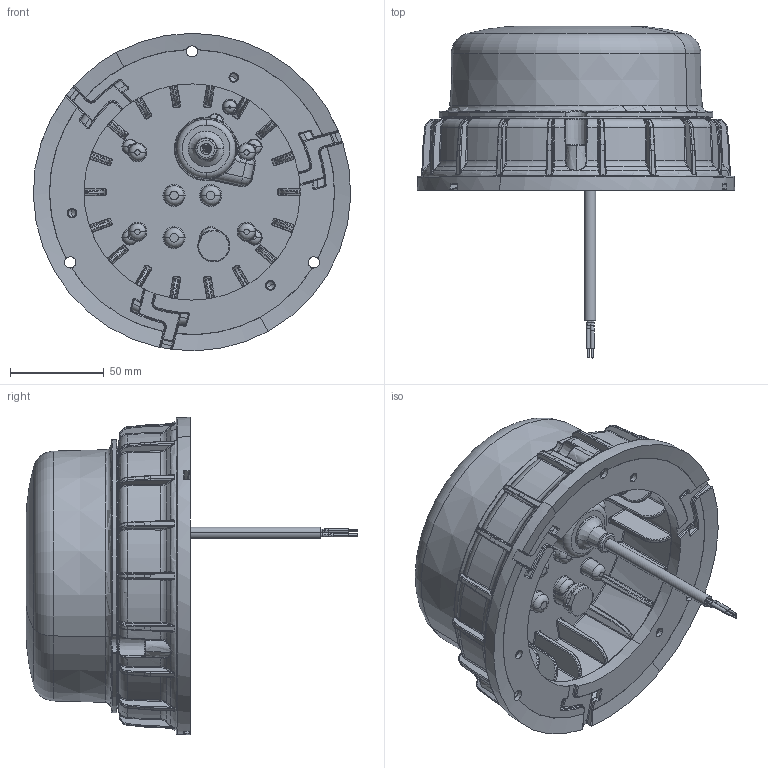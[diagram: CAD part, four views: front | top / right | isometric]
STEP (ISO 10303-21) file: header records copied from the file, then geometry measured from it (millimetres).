
FILE_DESCRIPTION(('CATIA V5 STEP Exchange','CAx-IF Rec.Pracs.--- Model Styling and Organization---1.5--- 2016-08-15','CAx-IF Rec.Pracs.---Supplemental Geometry---1.0---2011-11-01','CAx-IF Rec.Pracs.--- Composite Materials ---1.1---2010-07-15'),'2;1');
FILE_NAME('E:\tmp\ddx\2011221\HELLA_3D_data_K-LED_2-0_fix_2XD-011- 557-10.stp','2022-01-18T07:28:18+00:00',('none'),('none'),'CATIA Version 5-6 Release 2020 SP3 HF9','CATIA V5 STEP AP214 Edition 3 v2','none');
FILE_SCHEMA(('AUTOMOTIVE_DESIGN { 1 0 10303 214 3 1 1 1 }'));
Products named in the file (1): 10001962946_D10_001
Bounding box: 169.22 x 177 x 169.24 mm (x, y, z)
Volume: 850571.5 mm3; surface area: 186223.5 mm2
Topology: 1 solids, 6 shells, 3509 faces, 8494 edges, 4783 vertices
Faces by surface type: bspline 1420, torus 576, cylinder 524, plane 441, cone 341, sphere 191, extrusion 8, revolution 8
Entity records: 170329 total; most frequent: CARTESIAN_POINT 107413, ORIENTED_EDGE 16598, EDGE_CURVE 8299, DIRECTION 6393, B_SPLINE_CURVE_WITH_KNOTS 4952, VERTEX_POINT 4783, AXIS2_PLACEMENT_3D 3847, EDGE_LOOP 3570
